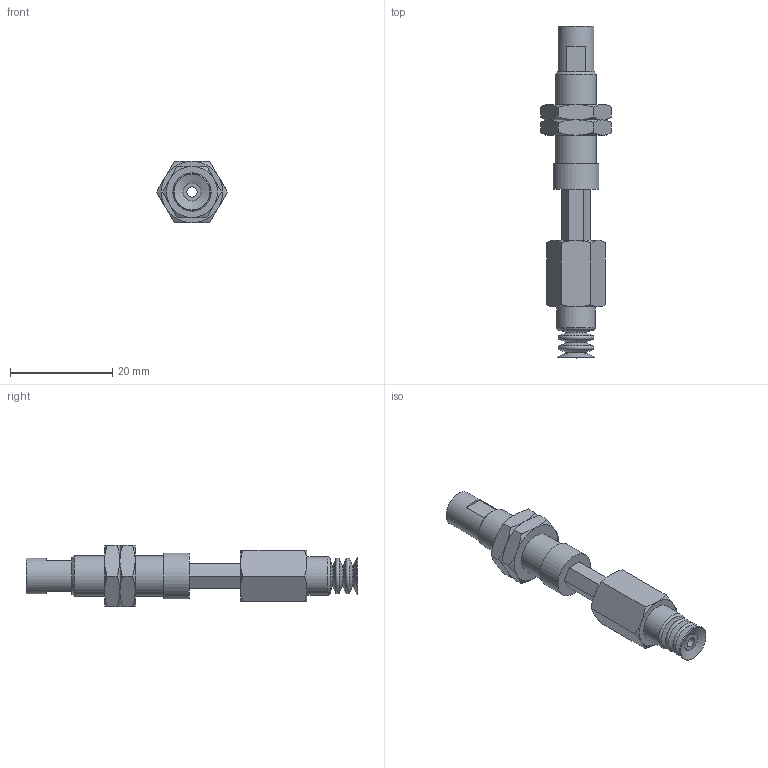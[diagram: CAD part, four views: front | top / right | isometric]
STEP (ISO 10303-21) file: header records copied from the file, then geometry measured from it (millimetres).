
FILE_DESCRIPTION(('STEP AP203'),'1');
FILE_NAME('.stp','2025-08-27T01:27:45',(' '),(' '),'Spatial InterOp 3D',' ',' ');
FILE_SCHEMA(('CONFIG_CONTROL_DESIGN'));
Length unit declared in the file: millimetre
Products named in the file (6): BNABPCTH-7-10-※; ADAPTER; NAPATH-10A-10--M; Nut napc_h-7-10; NAPCTH-7-10-FBODY; BPCG-7-※
Assembly tree (6 placements, depth 2):
  BNABPCTH-7-10-※
    ADAPTER
    NAPATH-10A-10--M
    Nut napc_h-7-10  x2
    NAPCTH-7-10-FBODY
    BPCG-7-※
Bounding box: 13.86 x 65 x 12 mm (x, y, z)
Volume: 3447.5 mm3; surface area: 4136.9 mm2
Topology: 6 solids, 6 shells, 130 faces, 274 edges, 163 vertices
Faces by surface type: plane 53, cone 50, cylinder 14, torus 13
Full cylindrical faces by diameter (mm): 2 x3, 4 x2, 4.134 x1, 6 x2, 7 x1, 7.188 x2, 7.5 x1, 8 x1, 9 x1
Entity records: 3120 total; most frequent: CARTESIAN_POINT 718, DIRECTION 442, ORIENTED_EDGE 368, AXIS2_PLACEMENT_3D 192, EDGE_CURVE 184, EDGE_LOOP 162, FACE_OUTER_BOUND 133, VERTEX_POINT 132
